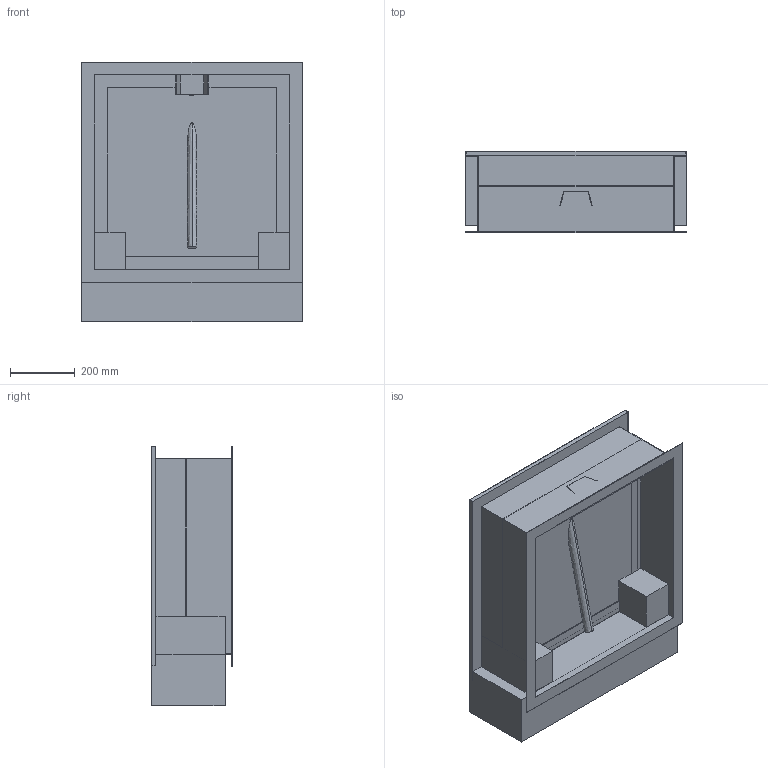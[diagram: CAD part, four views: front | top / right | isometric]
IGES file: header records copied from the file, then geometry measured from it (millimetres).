
Start section:  PTC IGES file: 51494511.igs
Global section: file name: 51494511.igs; native system: Creo Parametric by PTC Inc.; preprocessor: 2019224; author: slc; organization: Unknown; date: 20200629.081242; units: millimetre
Bounding box: 678 x 250 x 800 mm (x, y, z)
Surface area: 3035248 mm2 (no closed solid volume)
Topology: 0 solids, 0 shells, 87 faces, 456 edges, 456 vertices
Faces by surface type: bspline 78, revolution 9
